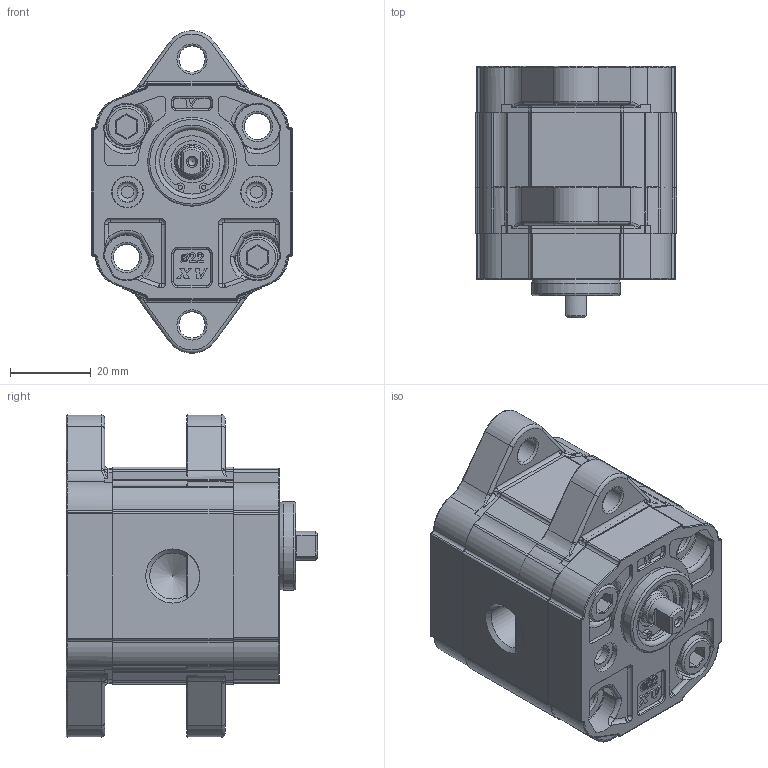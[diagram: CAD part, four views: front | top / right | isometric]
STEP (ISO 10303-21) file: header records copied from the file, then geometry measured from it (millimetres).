
FILE_DESCRIPTION( ( 'Unknown' ), '1' );
FILE_NAME( 'P:/montaggio_easy/output/STP/X0T0211BBBA.stp', 'Unknown', ( 'Unknown' ), ( 'Unknown' ), 'PSStep 14.0', 'Unknown', ' ' );
FILE_SCHEMA( ( 'AUTOMOTIVE_DESIGN { 1 0 10303 214 1 1 1 1 }' ) );
Length unit declared in the file: millimetre
Products named in the file (5): Assem1; X0T11; 0B; X0BBH29,9; XT012-A
Bounding box: 50 x 62.4 x 79.95 mm (x, y, z)
Volume: 236644 mm3; surface area: 70730.4 mm2
Topology: 8 solids, 14 shells, 1998 faces, 5142 edges, 3242 vertices
Faces by surface type: plane 770, cylinder 664, torus 268, bspline 112, cone 96, extrusion 72, sphere 16
Full cylindrical faces by diameter (mm): 1.053 x4, 2 x4, 3.233 x2, 5 x8, 6.107 x2, 6.5 x16, 7.16 x4, 7.5 x4, 7.9 x8, 7.92 x2, 8 x4, 9.318 x2, 10 x4, 10.445 x2, 11 x2, 11.445 x4, 14 x4, 16 x4, 16.2 x2, 16.8 x2, 22 x4
Entity records: 41820 total; most frequent: CARTESIAN_POINT 9928, DIRECTION 5081, ORIENTED_EDGE 4856, EDGE_CURVE 2428, AXIS2_PLACEMENT_3D 1942, VERTEX_POINT 1586, VECTOR 1197, EDGE_LOOP 1178
